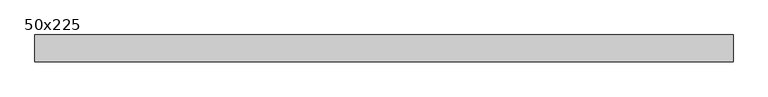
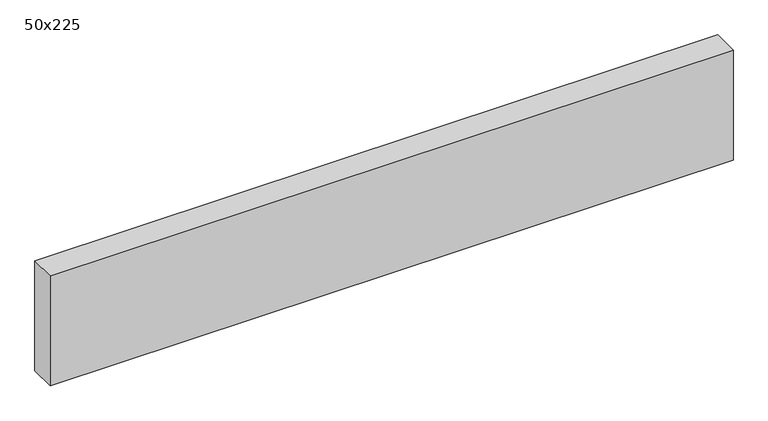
"""IFC4 building model written with IfcOpenShell, lengths in millimetres: beam geometry, Graded Timber : 50x225."""

from ifc_helpers import new_model, si_unit, frame, origin, place, context, project, spatial, polyline, outline, extrude, source, transform, mapped, element, save


def beam_50x225_593445f0(model_context):
    return source(origin(), model_context, "Body", "SweptSolid", [
        extrude(outline(polyline([(645.5, 25.0), (645.5, -25.0), (-645.5, -25.0), (-645.5, 25.0), (645.5, 25.0)])), frame((0.0, 0.0, -110.0), z_axis=(0.0, 0.0, 1.0), x_axis=(1.0, 0.0, 0.0)), (0.0, 0.0, 1.0), 220.0),
    ])


if __name__ == "__main__":
    model = new_model("IFC4")
    model_context = context("Model", 3, world=origin())
    ifc_project = project(units=[si_unit("LENGTHUNIT", "METRE", prefix="MILLI")], contexts=[model_context])
    site = spatial("IfcSite", under=ifc_project)
    building = spatial("IfcBuilding", under=site)
    placement = place(None, origin())
    beam_50x225_shape = beam_50x225_593445f0(model_context)
    element("IfcBeam", 1, ObjectType="Graded Timber : 50x225", at=placement, inside=building, context=model_context, shape_type="MappedRepresentation", body=[
        mapped(beam_50x225_shape, transform((0.0, 0.0, 0.0), x_axis=(1.0, 0.0, 0.0), y_axis=(0.0, 1.0, 0.0), z_axis=(0.0, 0.0, 1.0))),
    ])
    save(model, "model.ifc")
